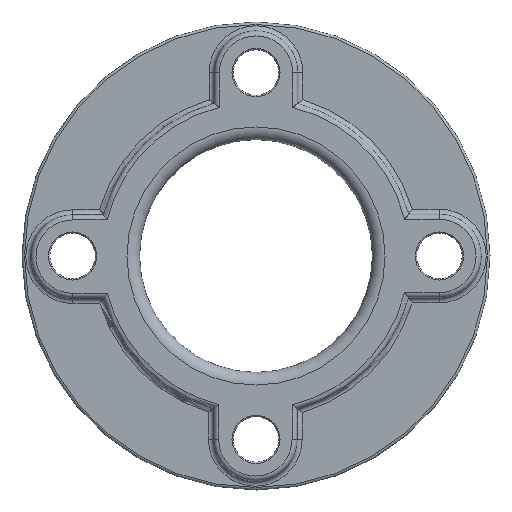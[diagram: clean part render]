
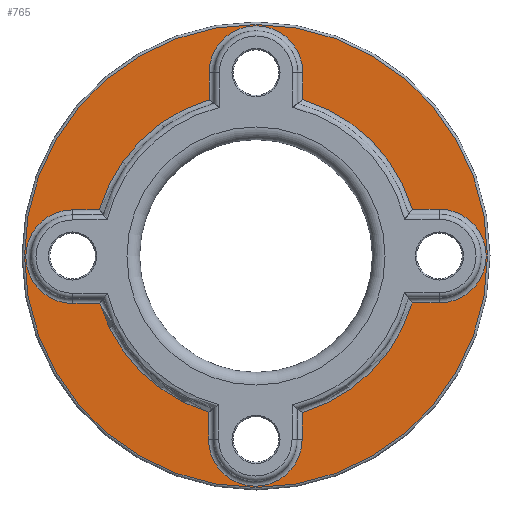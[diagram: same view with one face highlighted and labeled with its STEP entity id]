
A CAD part, front view. The second image highlights one B-rep face of the part: STEP entity #765.
In plain terms, the highlighted planar face has unit normal (0, -1, 0).
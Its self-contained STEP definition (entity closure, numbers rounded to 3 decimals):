
#72=LINE('',#1267,#96);
#73=LINE('',#1271,#97);
#74=LINE('',#1275,#98);
#75=LINE('',#1279,#99);
#76=LINE('',#1283,#100);
#77=LINE('',#1287,#101);
#78=LINE('',#1291,#102);
#79=LINE('',#1295,#103);
#96=VECTOR('',#1032,1000.);
#97=VECTOR('',#1035,1000.);
#98=VECTOR('',#1038,1000.);
#99=VECTOR('',#1041,1000.);
#100=VECTOR('',#1044,1000.);
#101=VECTOR('',#1047,1000.);
#102=VECTOR('',#1050,1000.);
#103=VECTOR('',#1053,1000.);
#114=PLANE('',#862);
#178=ORIENTED_EDGE('',*,*,#370,.T.);
#179=ORIENTED_EDGE('',*,*,#371,.T.);
#180=ORIENTED_EDGE('',*,*,#372,.T.);
#181=ORIENTED_EDGE('',*,*,#373,.T.);
#182=ORIENTED_EDGE('',*,*,#374,.T.);
#183=ORIENTED_EDGE('',*,*,#375,.T.);
#184=ORIENTED_EDGE('',*,*,#376,.T.);
#185=ORIENTED_EDGE('',*,*,#377,.T.);
#186=ORIENTED_EDGE('',*,*,#378,.T.);
#187=ORIENTED_EDGE('',*,*,#379,.T.);
#188=ORIENTED_EDGE('',*,*,#380,.T.);
#189=ORIENTED_EDGE('',*,*,#381,.T.);
#190=ORIENTED_EDGE('',*,*,#382,.T.);
#191=ORIENTED_EDGE('',*,*,#383,.T.);
#192=ORIENTED_EDGE('',*,*,#384,.T.);
#193=ORIENTED_EDGE('',*,*,#385,.T.);
#194=ORIENTED_EDGE('',*,*,#386,.T.);
#370=EDGE_CURVE('',#474,#475,#538,.T.);
#371=EDGE_CURVE('',#475,#476,#72,.T.);
#372=EDGE_CURVE('',#476,#477,#539,.T.);
#373=EDGE_CURVE('',#477,#478,#73,.T.);
#374=EDGE_CURVE('',#478,#479,#540,.T.);
#375=EDGE_CURVE('',#479,#480,#74,.T.);
#376=EDGE_CURVE('',#480,#481,#541,.T.);
#377=EDGE_CURVE('',#481,#482,#75,.T.);
#378=EDGE_CURVE('',#482,#483,#542,.T.);
#379=EDGE_CURVE('',#483,#484,#76,.T.);
#380=EDGE_CURVE('',#484,#485,#543,.T.);
#381=EDGE_CURVE('',#485,#486,#77,.T.);
#382=EDGE_CURVE('',#486,#487,#544,.T.);
#383=EDGE_CURVE('',#487,#488,#78,.T.);
#384=EDGE_CURVE('',#488,#489,#545,.T.);
#385=EDGE_CURVE('',#489,#474,#79,.T.);
#386=EDGE_CURVE('',#490,#490,#546,.F.);
#474=VERTEX_POINT('',#1265);
#475=VERTEX_POINT('',#1266);
#476=VERTEX_POINT('',#1268);
#477=VERTEX_POINT('',#1270);
#478=VERTEX_POINT('',#1272);
#479=VERTEX_POINT('',#1274);
#480=VERTEX_POINT('',#1276);
#481=VERTEX_POINT('',#1278);
#482=VERTEX_POINT('',#1280);
#483=VERTEX_POINT('',#1282);
#484=VERTEX_POINT('',#1284);
#485=VERTEX_POINT('',#1286);
#486=VERTEX_POINT('',#1288);
#487=VERTEX_POINT('',#1290);
#488=VERTEX_POINT('',#1292);
#489=VERTEX_POINT('',#1294);
#490=VERTEX_POINT('',#1297);
#538=CIRCLE('',#863,64.529);
#539=CIRCLE('',#864,18.5);
#540=CIRCLE('',#865,64.529);
#541=CIRCLE('',#866,18.5);
#542=CIRCLE('',#867,64.529);
#543=CIRCLE('',#868,18.5);
#544=CIRCLE('',#869,64.529);
#545=CIRCLE('',#870,18.5);
#546=CIRCLE('',#871,91.5);
#603=EDGE_LOOP('',(#178,#179,#180,#181,#182,#183,#184,#185,#186,#187,#188,
#189,#190,#191,#192,#193));
#604=EDGE_LOOP('',(#194));
#685=FACE_BOUND('',#603,.T.);
#686=FACE_BOUND('',#604,.T.);
#765=ADVANCED_FACE('',(#685,#686),#114,.F.);
#862=AXIS2_PLACEMENT_3D('',#1263,#1028,#1029);
#863=AXIS2_PLACEMENT_3D('',#1264,#1030,#1031);
#864=AXIS2_PLACEMENT_3D('',#1269,#1033,#1034);
#865=AXIS2_PLACEMENT_3D('',#1273,#1036,#1037);
#866=AXIS2_PLACEMENT_3D('',#1277,#1039,#1040);
#867=AXIS2_PLACEMENT_3D('',#1281,#1042,#1043);
#868=AXIS2_PLACEMENT_3D('',#1285,#1045,#1046);
#869=AXIS2_PLACEMENT_3D('',#1289,#1048,#1049);
#870=AXIS2_PLACEMENT_3D('',#1293,#1051,#1052);
#871=AXIS2_PLACEMENT_3D('',#1296,#1054,#1055);
#1028=DIRECTION('',(0.,1.,0.));
#1029=DIRECTION('',(0.,0.,1.));
#1030=DIRECTION('',(0.,1.,0.));
#1031=DIRECTION('',(0.,0.,1.));
#1032=DIRECTION('',(1.,0.,0.002));
#1033=DIRECTION('',(0.,1.,0.));
#1034=DIRECTION('',(0.,0.,1.));
#1035=DIRECTION('',(-1.,0.,-0.002));
#1036=DIRECTION('',(0.,1.,0.));
#1037=DIRECTION('',(0.,0.,1.));
#1038=DIRECTION('',(-0.002,0.,-1.));
#1039=DIRECTION('',(0.,1.,0.));
#1040=DIRECTION('',(0.,0.,1.));
#1041=DIRECTION('',(0.002,0.,1.));
#1042=DIRECTION('',(0.,1.,0.));
#1043=DIRECTION('',(0.,0.,1.));
#1044=DIRECTION('',(-1.,0.,-0.002));
#1045=DIRECTION('',(0.,1.,0.));
#1046=DIRECTION('',(0.,0.,1.));
#1047=DIRECTION('',(1.,0.,0.002));
#1048=DIRECTION('',(0.,1.,0.));
#1049=DIRECTION('',(0.,0.,1.));
#1050=DIRECTION('',(0.002,0.,1.));
#1051=DIRECTION('',(0.,1.,0.));
#1052=DIRECTION('',(0.,0.,1.));
#1053=DIRECTION('',(-0.002,0.,-1.));
#1054=DIRECTION('',(0.,1.,0.));
#1055=DIRECTION('',(0.,0.,1.));
#1263=CARTESIAN_POINT('',(0.,4.,0.));
#1264=CARTESIAN_POINT('',(0.,4.,0.));
#1265=CARTESIAN_POINT('',(18.481,4.,61.826));
#1266=CARTESIAN_POINT('',(61.826,4.,18.481));
#1267=CARTESIAN_POINT('',(72.467,4.,18.5));
#1268=CARTESIAN_POINT('',(72.467,4.,18.5));
#1269=CARTESIAN_POINT('',(72.5,4.,0.));
#1270=CARTESIAN_POINT('',(72.458,4.,-18.5));
#1271=CARTESIAN_POINT('',(60.311,4.,-18.521));
#1272=CARTESIAN_POINT('',(61.815,4.,-18.519));
#1273=CARTESIAN_POINT('',(0.,4.,0.));
#1274=CARTESIAN_POINT('',(18.261,4.,-61.892));
#1275=CARTESIAN_POINT('',(18.242,4.,-72.533));
#1276=CARTESIAN_POINT('',(18.242,4.,-72.533));
#1277=CARTESIAN_POINT('',(-0.258,4.,-72.5));
#1278=CARTESIAN_POINT('',(-18.757,4.,-72.392));
#1279=CARTESIAN_POINT('',(-18.736,4.,-60.245));
#1280=CARTESIAN_POINT('',(-18.738,4.,-61.749));
#1281=CARTESIAN_POINT('',(0.,4.,0.));
#1282=CARTESIAN_POINT('',(-61.749,4.,-18.737));
#1283=CARTESIAN_POINT('',(-72.397,4.,-18.755));
#1284=CARTESIAN_POINT('',(-72.393,4.,-18.755));
#1285=CARTESIAN_POINT('',(-72.499,4.,-0.256));
#1286=CARTESIAN_POINT('',(-72.532,4.,18.244));
#1287=CARTESIAN_POINT('',(-60.38,4.,18.266));
#1288=CARTESIAN_POINT('',(-61.891,4.,18.263));
#1289=CARTESIAN_POINT('',(0.,4.,0.));
#1290=CARTESIAN_POINT('',(-18.519,4.,61.815));
#1291=CARTESIAN_POINT('',(-18.5,4.,72.463));
#1292=CARTESIAN_POINT('',(-18.5,4.,72.458));
#1293=CARTESIAN_POINT('',(0.,4.,72.5));
#1294=CARTESIAN_POINT('',(18.5,4.,72.467));
#1295=CARTESIAN_POINT('',(18.478,4.,60.316));
#1296=CARTESIAN_POINT('',(0.,4.,0.));
#1297=CARTESIAN_POINT('',(0.,4.,91.5));
